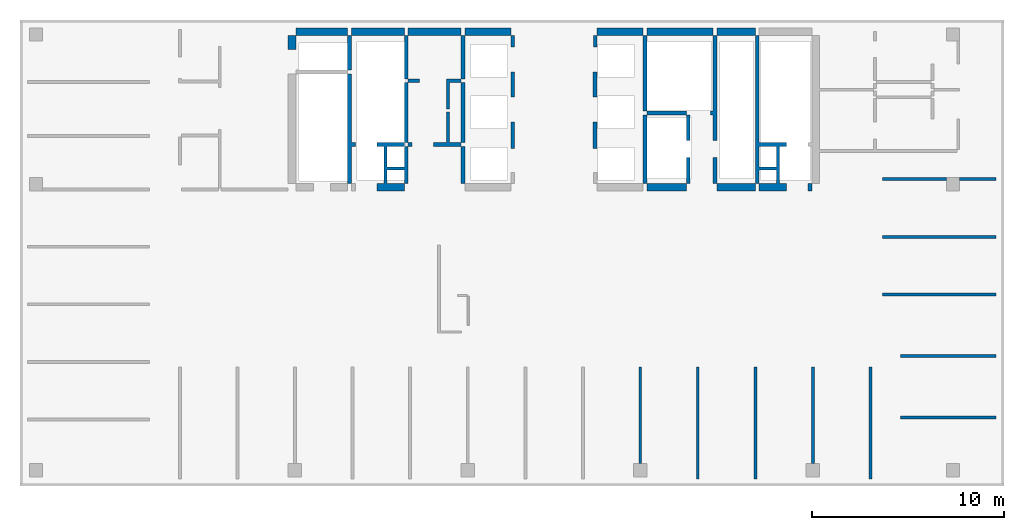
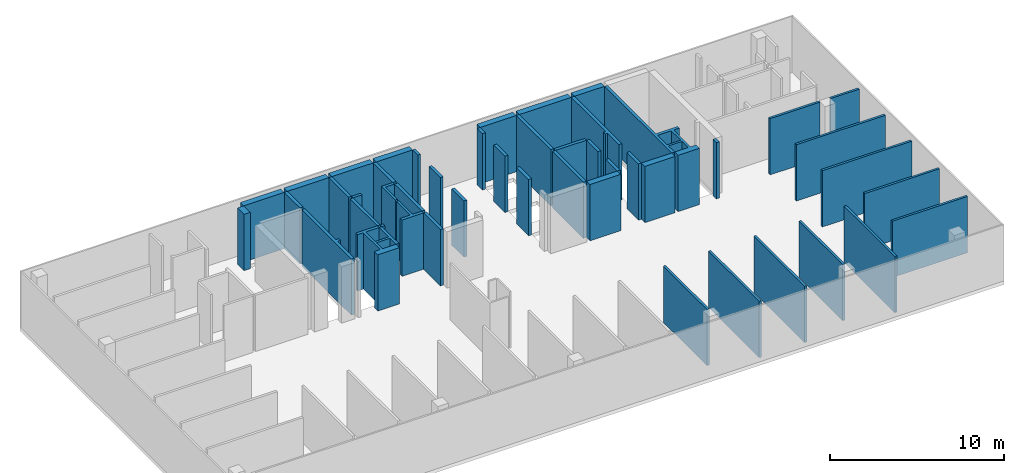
# One storey, part 2 of 4: 48 walls.
"""IFC4 building model written with IfcOpenShell, lengths in millimetres."""

from ifc_helpers import new_model, si_unit, frame, origin, place, context, project, spatial, triangles, element, save


model = new_model("IFC4")

# Units and contexts
model_context = context("Model", 3, precision=0.001, world=origin())
ifc_project = project(units=[si_unit("LENGTHUNIT", "METRE", prefix="MILLI"), si_unit("AREAUNIT", "SQUARE_METRE"), si_unit("VOLUMEUNIT", "CUBIC_METRE")], contexts=[model_context])

# Site, building, storey
site_placement = place(None, origin())
site = spatial("IfcSite", under=ifc_project, at=site_placement, Name="Site", CompositionType="ELEMENT")
building_placement = place(site_placement, origin())
building = spatial("IfcBuilding", under=site, at=building_placement, Name="INNOCEAN", CompositionType="ELEMENT")
storey_placement = place(building_placement, frame((0.0, 0.0, 72200.0)))
storey = spatial("IfcBuildingStorey", under=building, at=storey_placement, Name="F17", CompositionType="ELEMENT", Elevation=72200.0)

# Walls
wall_1_placement = place(storey_placement, origin())
element("IfcWall", 1, at=wall_1_placement, inside=storey, Name="F17_Walls_F17_015", context=model_context, shape_type="Tessellation", body=[
    triangles([(18130.0, 19245.0, 0.0), (18130.0, 17316.1, 0.0), (18130.0, 17316.1, 3950.0), (18130.0, 19245.0, 3950.0), (17749.4, 17316.1, 0.0), (17749.4, 17316.1, 3950.0), (17749.4, 16922.4, 0.0), (17749.4, 16922.4, 3950.0), (19183.7, 16922.4, 0.0), (19183.7, 16922.4, 3950.0), (19183.7, 17316.1, 0.0), (19183.7, 17316.1, 3950.0), (19374.1, 17316.1, 0.0), (19374.1, 17316.1, 3950.0), (19374.1, 19246.7, 0.0), (19374.1, 19246.7, 3950.0), (19183.7, 19246.7, 0.0), (19183.7, 19246.7, 3950.0), (19183.7, 19449.9, 0.0), (19183.7, 19449.9, 3950.0), (17749.4, 19449.9, 0.0), (17749.4, 19449.9, 3950.0), (17749.4, 19246.7, 0.0), (17749.4, 19246.7, 3950.0), (18130.2, 19246.7, 0.0), (18130.2, 19246.7, 3950.0), (18130.2, 19245.0, 0.0), (18130.2, 19245.0, 3950.0), (18282.5, 17316.1, 0.0), (18282.5, 17316.1, 3950.0), (18282.5, 18014.7, 0.0), (18282.5, 18014.7, 3950.0), (19183.7, 18014.7, 0.0), (19183.7, 18014.7, 3950.0), (19183.7, 18167.1, 0.0), (19183.7, 18167.1, 3950.0), (18282.5, 18167.1, 0.0), (18282.5, 18167.1, 3950.0), (18282.5, 19246.7, 0.0), (18282.5, 19246.7, 3950.0)], [[1, 2, 3], [1, 3, 4], [2, 5, 6], [2, 6, 3], [7, 8, 6], [5, 7, 6], [7, 9, 10], [7, 10, 8], [11, 12, 10], [9, 11, 10], [11, 13, 14], [11, 14, 12], [13, 15, 16], [13, 16, 14], [15, 17, 18], [15, 18, 16], [17, 19, 20], [17, 20, 18], [19, 21, 22], [19, 22, 20], [21, 23, 24], [21, 24, 22], [25, 26, 24], [23, 25, 24], [25, 27, 28], [25, 28, 26], [27, 1, 4], [27, 4, 28], [11, 29, 30], [11, 30, 12], [29, 31, 32], [29, 32, 30], [31, 33, 34], [31, 34, 32], [33, 11, 12], [33, 12, 34], [17, 35, 36], [17, 36, 18], [35, 37, 38], [35, 38, 36], [37, 39, 40], [37, 40, 38], [39, 17, 18], [39, 18, 40], [33, 13, 11], [35, 13, 33], [29, 11, 9], [7, 29, 9], [2, 29, 7], [5, 2, 7], [31, 35, 33], [31, 29, 2], [15, 13, 35], [37, 35, 31], [17, 15, 35], [39, 19, 17], [27, 39, 37], [1, 27, 37], [25, 39, 27], [21, 25, 23], [21, 19, 39], [21, 39, 25], [2, 1, 37], [2, 37, 31], [14, 34, 12], [14, 36, 34], [12, 30, 10], [30, 8, 10], [30, 3, 8], [3, 6, 8], [36, 32, 34], [30, 32, 3], [14, 16, 36], [36, 38, 32], [16, 18, 36], [20, 40, 18], [40, 28, 38], [28, 4, 38], [40, 26, 28], [26, 22, 24], [20, 22, 40], [40, 22, 26], [4, 3, 38], [38, 3, 32]], closed=True),
])
wall_2_placement = place(storey_placement, origin())
element("IfcWall", 2, at=wall_2_placement, inside=storey, Name="F17_Walls_F17_016", context=model_context, shape_type="Tessellation", body=[
    triangles([(16429.3, 23019.0, 0.0), (16226.2, 23019.0, 0.0), (16226.2, 23019.0, 3950.0), (16429.3, 23019.0, 3950.0), (16429.3, 19449.9, 0.0), (16429.3, 19449.9, 3950.0), (16632.4, 19449.9, 3950.0), (16632.4, 19449.9, 0.0), (16632.4, 19246.7, 0.0), (16632.4, 19246.7, 3950.0), (16429.3, 19246.7, 3950.0), (16429.3, 19246.7, 0.0), (16429.3, 17316.1, 0.0), (16429.3, 17316.1, 3950.0), (16226.2, 17316.1, 0.0), (16226.2, 17316.1, 3950.0), (16226.2, 19246.7, 0.0), (16226.2, 19246.7, 3950.0), (16226.2, 19449.9, 0.0), (16226.2, 19449.9, 3950.0)], [[1, 2, 3], [1, 3, 4], [5, 1, 4], [5, 4, 6], [5, 6, 7], [8, 5, 7], [9, 8, 7], [9, 7, 10], [9, 10, 11], [12, 9, 11], [13, 12, 11], [13, 11, 14], [15, 13, 14], [15, 14, 16], [17, 15, 16], [17, 16, 18], [19, 17, 18], [19, 18, 20], [2, 19, 20], [2, 20, 3], [17, 12, 13], [17, 13, 15], [5, 8, 9], [5, 9, 12], [19, 5, 12], [19, 12, 17], [1, 5, 19], [2, 1, 19], [11, 18, 14], [14, 18, 16], [7, 6, 10], [10, 6, 11], [6, 20, 11], [11, 20, 18], [6, 4, 20], [4, 3, 20]], closed=True),
])
wall_3_placement = place(storey_placement, origin())
element("IfcWall", 3, at=wall_3_placement, inside=storey, Name="F17_Walls_F17_024", context=model_context, shape_type="Tessellation", body=[
    triangles([(16429.3, 23222.2, 0.0), (16429.3, 25025.8, 0.0), (16429.3, 25025.8, 3950.0), (16429.3, 23222.2, 3950.0), (16226.2, 23222.2, 0.0), (16226.2, 23222.2, 3950.0), (16226.2, 25025.8, 0.0), (16226.2, 25025.8, 3950.0)], [[1, 2, 3], [1, 3, 4], [5, 1, 4], [5, 4, 6], [7, 5, 6], [7, 6, 8], [2, 7, 8], [2, 8, 3], [7, 2, 1], [7, 1, 5], [3, 8, 4], [4, 8, 6]], closed=True),
])
wall_4_placement = place(storey_placement, origin())
element("IfcWall", 4, at=wall_4_placement, inside=storey, Name="F17_Walls_F17_026", context=model_context, shape_type="Tessellation", body=[
    triangles([(13535.2, 24276.4, 0.0), (13535.2, 25025.8, 0.0), (13535.2, 25025.8, 3950.0), (13535.2, 24276.4, 3950.0), (13129.0, 24276.4, 3950.0), (13129.0, 24276.4, 0.0), (13129.0, 25025.8, 0.0), (13129.0, 25025.8, 3950.0)], [[1, 2, 3], [1, 3, 4], [1, 4, 5], [6, 1, 5], [7, 6, 5], [7, 5, 8], [7, 8, 3], [2, 7, 3], [2, 1, 6], [7, 2, 6], [4, 3, 5], [3, 8, 5]], closed=True),
])
wall_5_placement = place(storey_placement, origin())
element("IfcWall", 5, at=wall_5_placement, inside=storey, Name="F17_Walls_F17_027", context=model_context, shape_type="Tessellation", body=[
    triangles([(13535.2, 25419.5, 0.0), (13535.2, 25025.8, 0.0), (13535.2, 25025.8, 3950.0), (13535.2, 25419.5, 3950.0), (16226.2, 25419.5, 0.0), (16226.2, 25419.5, 3950.0), (16226.2, 25025.8, 0.0), (16226.2, 25025.8, 3950.0)], [[1, 2, 3], [1, 3, 4], [5, 1, 4], [5, 4, 6], [7, 5, 6], [7, 6, 8], [2, 7, 8], [2, 8, 3], [2, 5, 7], [1, 5, 2], [6, 3, 8], [6, 4, 3]], closed=True),
])
wall_6_placement = place(storey_placement, origin())
element("IfcWall", 6, at=wall_6_placement, inside=storey, Name="F17_Walls_F17_028", context=model_context, shape_type="Tessellation", body=[
    triangles([(19183.7, 25025.8, 0.0), (19183.7, 25419.5, 0.0), (19183.7, 25419.5, 3950.0), (19183.7, 25025.8, 3950.0), (16429.3, 25025.8, 0.0), (16429.3, 25025.8, 3950.0), (16429.3, 25419.5, 0.0), (16429.3, 25419.5, 3950.0)], [[1, 2, 3], [1, 3, 4], [5, 1, 4], [5, 4, 6], [7, 5, 6], [7, 6, 8], [2, 7, 8], [2, 8, 3], [7, 2, 1], [7, 1, 5], [3, 8, 4], [4, 8, 6]], closed=True),
])
wall_7_placement = place(storey_placement, origin())
element("IfcWall", 7, at=wall_7_placement, inside=storey, Name="F17_Walls_F17_037", context=model_context, shape_type="Tessellation", body=[
    triangles([(22331.6, 17316.1, 0.0), (22331.6, 19246.7, 0.0), (22331.6, 19246.7, 3950.0), (22331.6, 17316.1, 3950.0), (22128.5, 17316.1, 0.0), (22128.5, 17316.1, 3950.0), (22128.5, 19246.7, 0.0), (22128.5, 19246.7, 3950.0)], [[1, 2, 3], [1, 3, 4], [5, 1, 4], [5, 4, 6], [7, 5, 6], [7, 6, 8], [2, 7, 8], [2, 8, 3], [7, 2, 1], [7, 1, 5], [3, 8, 4], [4, 8, 6]], closed=True),
])
wall_8_placement = place(storey_placement, origin())
element("IfcWall", 8, at=wall_8_placement, inside=storey, Name="F17_Walls_F17_038", context=model_context, shape_type="Tessellation", body=[
    triangles([(22128.5, 19246.7, 0.0), (22128.5, 19449.9, 0.0), (22128.5, 19449.9, 3950.0), (22128.5, 19246.7, 3950.0), (20694.2, 19246.7, 0.0), (20694.2, 19246.7, 3950.0), (20694.2, 19449.9, 0.0), (20694.2, 19449.9, 3950.0), (21366.9, 19449.9, 0.0), (21366.9, 19449.9, 3950.0), (21366.9, 21024.9, 0.0), (21366.9, 21024.9, 3950.0), (21519.3, 21024.9, 0.0), (21519.3, 21024.9, 3950.0), (21519.3, 19449.9, 0.0), (21519.3, 19449.9, 3950.0)], [[1, 2, 3], [1, 3, 4], [5, 1, 4], [5, 4, 6], [7, 5, 6], [7, 6, 8], [9, 7, 8], [9, 8, 10], [11, 9, 10], [11, 10, 12], [13, 11, 12], [13, 12, 14], [15, 13, 14], [15, 14, 16], [2, 15, 16], [2, 16, 3], [15, 2, 1], [9, 15, 1], [5, 9, 1], [7, 9, 5], [11, 13, 15], [11, 15, 9], [3, 16, 4], [16, 10, 4], [10, 6, 4], [10, 8, 6], [14, 12, 16], [16, 12, 10]], closed=True),
])
wall_9_placement = place(storey_placement, origin())
element("IfcWall", 9, at=wall_9_placement, inside=storey, Name="F17_Walls_F17_039", context=model_context, shape_type="Tessellation", body=[
    triangles([(19374.1, 19449.9, 0.0), (19374.1, 19449.9, 3950.0), (19577.2, 19449.9, 3950.0), (19577.2, 19449.9, 0.0), (19577.2, 19246.7, 0.0), (19577.2, 19246.7, 3950.0), (19374.1, 19246.7, 3950.0), (19374.1, 19246.7, 0.0)], [[1, 2, 3], [4, 1, 3], [5, 4, 3], [5, 3, 6], [5, 6, 7], [8, 5, 7], [1, 8, 7], [1, 7, 2], [1, 4, 5], [1, 5, 8], [3, 2, 6], [6, 2, 7]], closed=True),
])
wall_10_placement = place(storey_placement, origin())
element("IfcWall", 10, at=wall_10_placement, inside=storey, Name="F17_Walls_F17_040", context=model_context, shape_type="Tessellation", body=[
    triangles([(24730.0, 20515.0, 0.0), (24730.0, 19120.0, 0.0), (24730.0, 19120.0, 3950.0), (24730.0, 20515.0, 3950.0), (24730.6, 20515.0, 0.0), (24730.6, 20515.0, 3950.0), (24730.6, 20516.8, 3950.0), (24730.6, 20516.8, 0.0), (24921.0, 20516.8, 0.0), (24921.0, 20516.8, 3950.0), (24921.0, 19119.7, 0.0), (24921.0, 19119.7, 3950.0), (24730.6, 19119.7, 0.0), (24730.6, 19119.7, 3950.0), (24730.6, 19120.0, 0.0), (24730.6, 19120.0, 3950.0)], [[1, 2, 3], [1, 3, 4], [5, 1, 4], [5, 4, 6], [5, 6, 7], [8, 5, 7], [9, 8, 7], [9, 7, 10], [11, 9, 10], [11, 10, 12], [13, 11, 12], [13, 12, 14], [15, 13, 14], [15, 14, 16], [2, 15, 16], [2, 16, 3], [15, 11, 13], [5, 9, 11], [5, 11, 15], [1, 15, 2], [1, 5, 15], [8, 9, 5], [12, 16, 14], [10, 6, 12], [12, 6, 16], [16, 4, 3], [6, 4, 16], [10, 7, 6]], closed=True),
])
wall_11_placement = place(storey_placement, origin())
element("IfcWall", 11, at=wall_11_placement, inside=storey, Name="F17_Walls_F17_041", context=model_context, shape_type="Tessellation", body=[
    triangles([(19183.7, 19449.9, 0.0), (19374.1, 19449.9, 0.0), (19374.1, 19449.9, 3950.0), (19183.7, 19449.9, 3950.0), (19183.7, 22574.4, 0.0), (19183.7, 22574.4, 3950.0), (19374.1, 22574.4, 0.0), (19374.1, 22574.4, 3950.0)], [[1, 2, 3], [1, 3, 4], [5, 1, 4], [5, 4, 6], [7, 5, 6], [7, 6, 8], [2, 7, 8], [2, 8, 3], [7, 2, 1], [5, 7, 1], [3, 8, 4], [8, 6, 4]], closed=True),
])
wall_12_placement = place(storey_placement, origin())
element("IfcWall", 12, at=wall_12_placement, inside=storey, Name="F17_Walls_F17_042", context=model_context, shape_type="Tessellation", body=[
    triangles([(22128.5, 19449.9, 0.0), (22331.6, 19449.9, 0.0), (22331.6, 19449.9, 3950.0), (22128.5, 19449.9, 3950.0), (22128.5, 22574.4, 0.0), (22128.5, 22574.4, 3950.0), (22331.6, 22574.4, 0.0), (22331.6, 22574.4, 3950.0)], [[1, 2, 3], [1, 3, 4], [5, 1, 4], [5, 4, 6], [7, 5, 6], [7, 6, 8], [2, 7, 8], [2, 8, 3], [7, 2, 1], [5, 7, 1], [3, 8, 4], [8, 6, 4]], closed=True),
])
wall_13_placement = place(storey_placement, origin())
element("IfcWall", 13, at=wall_13_placement, inside=storey, Name="F17_Walls_F17_043", context=model_context, shape_type="Tessellation", body=[
    triangles([(21366.9, 21177.3, 0.0), (21519.3, 21177.3, 0.0), (21519.3, 21177.3, 3950.0), (21366.9, 21177.3, 3950.0), (21366.9, 22574.4, 0.0), (21366.9, 22574.4, 3950.0), (21366.9, 22765.0, 3950.0), (21366.9, 22765.0, 0.0), (22128.5, 22765.0, 0.0), (22128.5, 22765.0, 3950.0), (22128.5, 22574.4, 3950.0), (22128.5, 22574.4, 0.0), (21519.3, 22574.4, 0.0), (21519.3, 22574.4, 3950.0)], [[1, 2, 3], [1, 3, 4], [5, 1, 4], [5, 4, 6], [5, 6, 7], [8, 5, 7], [9, 8, 7], [9, 7, 10], [9, 10, 11], [12, 9, 11], [13, 12, 11], [13, 11, 14], [2, 13, 14], [2, 14, 3], [13, 9, 12], [5, 2, 1], [5, 13, 2], [8, 13, 5], [8, 9, 13], [10, 14, 11], [3, 6, 4], [14, 6, 3], [14, 7, 6], [10, 7, 14]], closed=True),
])
wall_14_placement = place(storey_placement, origin())
element("IfcWall", 14, at=wall_14_placement, inside=storey, Name="F17_Walls_F17_044", context=model_context, shape_type="Tessellation", body=[
    triangles([(24920.0, 21825.0, 0.0), (24920.0, 21825.1, 0.0), (24920.0, 21825.1, 3950.0), (24920.0, 21825.0, 3950.0), (24730.0, 21825.0, 0.0), (24730.0, 21825.0, 3950.0), (24730.0, 23120.0, 3950.0), (24730.0, 23120.0, 0.0), (24730.6, 23120.0, 0.0), (24730.6, 23120.0, 3950.0), (24730.6, 23120.6, 0.0), (24730.6, 23120.6, 3950.0), (24921.0, 23120.6, 0.0), (24921.0, 23120.6, 3950.0), (24921.0, 21825.1, 0.0), (24921.0, 21825.1, 3950.0)], [[1, 2, 3], [1, 3, 4], [5, 1, 4], [5, 4, 6], [5, 6, 7], [8, 5, 7], [9, 8, 7], [9, 7, 10], [11, 9, 10], [11, 10, 12], [13, 11, 12], [13, 12, 14], [15, 13, 14], [15, 14, 16], [2, 15, 16], [2, 16, 3], [5, 2, 1], [13, 15, 2], [9, 13, 2], [9, 2, 5], [8, 9, 5], [11, 13, 9], [3, 6, 4], [16, 14, 3], [14, 10, 3], [3, 10, 6], [10, 7, 6], [14, 12, 10]], closed=True),
])
wall_15_placement = place(storey_placement, origin())
element("IfcWall", 15, at=wall_15_placement, inside=storey, Name="F17_Walls_F17_045", context=model_context, shape_type="Tessellation", body=[
    triangles([(19374.1, 22574.4, 0.0), (19374.1, 22574.4, 3950.0), (19374.1, 22765.0, 3950.0), (19374.1, 22765.0, 0.0), (19970.7, 22765.0, 0.0), (19970.7, 22765.0, 3950.0), (19970.7, 22574.4, 3950.0), (19970.7, 22574.4, 0.0)], [[1, 2, 3], [4, 1, 3], [5, 4, 3], [5, 3, 6], [5, 6, 7], [8, 5, 7], [1, 8, 7], [1, 7, 2], [4, 5, 8], [4, 8, 1], [6, 3, 7], [7, 3, 2]], closed=True),
])
wall_16_placement = place(storey_placement, origin())
element("IfcWall", 16, at=wall_16_placement, inside=storey, Name="F17_Walls_F17_046", context=model_context, shape_type="Tessellation", body=[
    triangles([(19374.1, 22765.0, 0.0), (19374.1, 25025.8, 0.0), (19374.1, 25025.8, 3950.0), (19374.1, 22765.0, 3950.0), (19183.7, 22765.0, 0.0), (19183.7, 22765.0, 3950.0), (19183.7, 25025.8, 0.0), (19183.7, 25025.8, 3950.0)], [[1, 2, 3], [1, 3, 4], [5, 1, 4], [5, 4, 6], [7, 5, 6], [7, 6, 8], [2, 7, 8], [2, 8, 3], [7, 2, 1], [7, 1, 5], [3, 8, 4], [4, 8, 6]], closed=True),
])
wall_17_placement = place(storey_placement, origin())
element("IfcWall", 17, at=wall_17_placement, inside=storey, Name="F17_Walls_F17_047", context=model_context, shape_type="Tessellation", body=[
    triangles([(22128.5, 25025.8, 0.0), (22128.5, 22765.0, 0.0), (22128.5, 22765.0, 3950.0), (22128.5, 25025.8, 3950.0), (22331.6, 25025.8, 0.0), (22331.6, 25025.8, 3950.0), (22331.6, 22765.0, 0.0), (22331.6, 22765.0, 3950.0)], [[1, 2, 3], [1, 3, 4], [5, 1, 4], [5, 4, 6], [7, 5, 6], [7, 6, 8], [2, 7, 8], [2, 8, 3], [1, 5, 7], [1, 7, 2], [6, 4, 8], [8, 4, 3]], closed=True),
])
wall_18_placement = place(storey_placement, origin())
element("IfcWall", 18, at=wall_18_placement, inside=storey, Name="F17_Walls_F17_048", context=model_context, shape_type="Tessellation", body=[
    triangles([(24730.6, 24416.1, 0.0), (24921.0, 24416.1, 0.0), (24921.0, 24416.1, 3950.0), (24730.6, 24416.1, 3950.0), (24730.6, 25025.8, 0.0), (24730.6, 25025.8, 3950.0), (24921.0, 25025.8, 0.0), (24921.0, 25025.8, 3950.0)], [[1, 2, 3], [1, 3, 4], [5, 1, 4], [5, 4, 6], [7, 5, 6], [7, 6, 8], [2, 7, 8], [2, 8, 3], [5, 2, 1], [5, 7, 2], [3, 6, 4], [8, 6, 3]], closed=True),
])
wall_19_placement = place(storey_placement, origin())
element("IfcWall", 19, at=wall_19_placement, inside=storey, Name="F17_Walls_F17_049", context=model_context, shape_type="Tessellation", body=[
    triangles([(19374.1, 25025.8, 0.0), (22128.5, 25025.8, 0.0), (22128.5, 25025.8, 3950.0), (19374.1, 25025.8, 3950.0), (19374.1, 25419.5, 0.0), (19374.1, 25419.5, 3950.0), (22128.5, 25419.5, 0.0), (22128.5, 25419.5, 3950.0)], [[1, 2, 3], [1, 3, 4], [5, 1, 4], [5, 4, 6], [7, 5, 6], [7, 6, 8], [2, 7, 8], [2, 8, 3], [5, 2, 1], [5, 7, 2], [3, 6, 4], [8, 6, 3]], closed=True),
])
wall_20_placement = place(storey_placement, origin())
element("IfcWall", 20, at=wall_20_placement, inside=storey, Name="F17_Walls_F17_050", context=model_context, shape_type="Tessellation", body=[
    triangles([(24730.6, 25025.8, 0.0), (24730.6, 25419.5, 0.0), (24730.6, 25419.5, 3950.0), (24730.6, 25025.8, 3950.0), (22331.6, 25025.8, 0.0), (22331.6, 25025.8, 3950.0), (22331.6, 25419.5, 0.0), (22331.6, 25419.5, 3950.0)], [[1, 2, 3], [1, 3, 4], [5, 1, 4], [5, 4, 6], [7, 5, 6], [7, 6, 8], [2, 7, 8], [2, 8, 3], [7, 2, 1], [7, 1, 5], [3, 8, 4], [4, 8, 6]], closed=True),
])
wall_21_placement = place(storey_placement, origin())
element("IfcWall", 21, at=wall_21_placement, inside=storey, Name="F17_Walls_F17_052", context=model_context, shape_type="Tessellation", body=[
    triangles([(34542.5, 1922.1, 0.0), (34542.5, 7752.0, 0.0), (34542.5, 7752.0, 3950.0), (34542.5, 1922.1, 3950.0), (34390.2, 1922.1, 0.0), (34390.2, 1922.1, 3950.0), (34390.2, 7752.0, 0.0), (34390.2, 7752.0, 3950.0)], [[1, 2, 3], [1, 3, 4], [5, 1, 4], [5, 4, 6], [7, 5, 6], [7, 6, 8], [2, 7, 8], [2, 8, 3], [2, 1, 5], [7, 2, 5], [4, 3, 6], [3, 8, 6]], closed=True),
])
wall_22_placement = place(storey_placement, origin())
element("IfcWall", 22, at=wall_22_placement, inside=storey, Name="F17_Walls_F17_053", context=model_context, shape_type="Tessellation", body=[
    triangles([(37550.8, 1922.1, 0.0), (37550.8, 7752.0, 0.0), (37550.8, 7752.0, 3950.0), (37550.8, 1922.1, 3950.0), (37398.5, 1922.1, 0.0), (37398.5, 1922.1, 3950.0), (37398.5, 7752.0, 0.0), (37398.5, 7752.0, 3950.0)], [[1, 2, 3], [1, 3, 4], [5, 1, 4], [5, 4, 6], [7, 5, 6], [7, 6, 8], [2, 7, 8], [2, 8, 3], [2, 1, 5], [7, 2, 5], [4, 3, 6], [3, 8, 6]], closed=True),
])
wall_23_placement = place(storey_placement, origin())
element("IfcWall", 23, at=wall_23_placement, inside=storey, Name="F17_Walls_F17_054", context=model_context, shape_type="Tessellation", body=[
    triangles([(31546.9, 2722.3, 0.0), (31546.9, 7752.0, 0.0), (31546.9, 7752.0, 3950.0), (31546.9, 2722.3, 3950.0), (31394.6, 2722.3, 0.0), (31394.6, 2722.3, 3950.0), (31394.6, 7752.0, 0.0), (31394.6, 7752.0, 3950.0)], [[1, 2, 3], [1, 3, 4], [5, 1, 4], [5, 4, 6], [7, 5, 6], [7, 6, 8], [2, 7, 8], [2, 8, 3], [7, 2, 1], [7, 1, 5], [3, 8, 4], [4, 8, 6]], closed=True),
])
wall_24_placement = place(storey_placement, origin())
element("IfcWall", 24, at=wall_24_placement, inside=storey, Name="F17_Walls_F17_056", context=model_context, shape_type="Tessellation", body=[
    triangles([(33869.8, 17316.1, 0.0), (33869.8, 17316.1, 3950.0), (33869.8, 16922.4, 3950.0), (33869.8, 16922.4, 0.0), (31826.2, 16922.4, 0.0), (31826.2, 16922.4, 3950.0), (31826.2, 17316.1, 3950.0), (31826.2, 17316.1, 0.0)], [[1, 2, 3], [4, 1, 3], [5, 4, 3], [5, 3, 6], [5, 6, 7], [8, 5, 7], [1, 8, 7], [1, 7, 2], [8, 1, 4], [8, 4, 5], [2, 7, 3], [3, 7, 6]], closed=True),
])
wall_25_placement = place(storey_placement, origin())
element("IfcWall", 25, at=wall_25_placement, inside=storey, Name="F17_Walls_F17_057", context=model_context, shape_type="Tessellation", body=[
    triangles([(37474.6, 17316.1, 0.0), (37474.6, 17316.1, 3950.0), (37474.6, 16922.4, 3950.0), (37474.6, 16922.4, 0.0), (35469.1, 16922.4, 0.0), (35469.1, 16922.4, 3950.0), (35469.1, 17316.1, 3950.0), (35469.1, 17316.1, 0.0)], [[1, 2, 3], [4, 1, 3], [5, 4, 3], [5, 3, 6], [5, 6, 7], [8, 5, 7], [1, 8, 7], [1, 7, 2], [8, 1, 4], [8, 4, 5], [2, 7, 3], [3, 7, 6]], closed=True),
])
wall_26_placement = place(storey_placement, origin())
element("IfcWall", 26, at=wall_26_placement, inside=storey, Name="F17_Walls_F17_058", context=model_context, shape_type="Tessellation", body=[
    triangles([(39099.4, 17316.1, 0.0), (38720.0, 17316.1, 0.0), (38720.0, 17316.1, 3950.0), (39099.4, 17316.1, 3950.0), (38720.0, 19245.0, 0.0), (38720.0, 19245.0, 3950.0), (39100.0, 19245.0, 0.0), (39100.0, 19245.0, 3950.0), (39100.0, 19450.0, 0.0), (39100.0, 19450.0, 3950.0), (37665.0, 19450.0, 0.0), (37665.0, 19450.0, 3950.0), (37665.0, 25025.8, 0.0), (37665.0, 25025.8, 3950.0), (37474.6, 25025.8, 0.0), (37474.6, 25025.8, 3950.0), (37474.6, 19449.9, 0.0), (37474.6, 19449.9, 3950.0), (37474.6, 17316.1, 0.0), (37474.6, 17316.1, 3950.0), (37665.0, 17316.1, 0.0), (37665.0, 17316.1, 3950.0), (37665.0, 16922.4, 0.0), (37665.0, 16922.4, 3950.0), (39099.4, 16922.4, 0.0), (39099.4, 16922.4, 3950.0), (37665.0, 18014.7, 0.0), (37665.0, 18014.7, 3950.0), (38565.0, 18014.7, 0.0), (38565.0, 18014.7, 3950.0), (38565.0, 17316.1, 0.0), (38565.0, 17316.1, 3950.0), (38565.0, 19245.0, 0.0), (38565.0, 18167.1, 0.0), (38565.0, 18167.1, 3950.0), (38565.0, 19245.0, 3950.0), (37665.0, 18167.1, 0.0), (37665.0, 18167.1, 3950.0), (37665.0, 19245.0, 0.0), (37665.0, 19245.0, 3950.0)], [[1, 2, 3], [1, 3, 4], [2, 5, 6], [2, 6, 3], [7, 8, 6], [5, 7, 6], [7, 9, 10], [7, 10, 8], [9, 11, 12], [9, 12, 10], [11, 13, 14], [11, 14, 12], [13, 15, 16], [13, 16, 14], [15, 17, 18], [15, 18, 16], [17, 19, 20], [17, 20, 18], [19, 21, 22], [19, 22, 20], [23, 24, 22], [21, 23, 22], [23, 25, 26], [23, 26, 24], [1, 4, 26], [25, 1, 26], [21, 27, 28], [21, 28, 22], [27, 29, 30], [27, 30, 28], [29, 31, 32], [29, 32, 30], [31, 21, 22], [31, 22, 32], [33, 34, 35], [33, 35, 36], [34, 37, 38], [34, 38, 35], [37, 39, 40], [37, 40, 38], [39, 33, 36], [39, 36, 40], [2, 1, 25], [31, 2, 25], [23, 31, 25], [29, 2, 31], [21, 31, 23], [27, 21, 19], [37, 29, 27], [37, 34, 29], [37, 27, 19], [5, 9, 7], [33, 5, 34], [33, 9, 5], [11, 33, 39], [11, 9, 33], [17, 39, 37], [17, 11, 39], [17, 37, 19], [15, 13, 11], [15, 11, 17], [5, 2, 29], [5, 29, 34], [4, 3, 26], [3, 32, 26], [32, 24, 26], [3, 30, 32], [32, 22, 24], [22, 28, 20], [30, 38, 28], [35, 38, 30], [28, 38, 20], [10, 6, 8], [6, 36, 35], [10, 36, 6], [36, 12, 40], [10, 12, 36], [40, 18, 38], [12, 18, 40], [38, 18, 20], [14, 16, 12], [12, 16, 18], [3, 6, 30], [30, 6, 35]], closed=True),
])
wall_27_placement = place(storey_placement, origin())
element("IfcWall", 27, at=wall_27_placement, inside=storey, Name="F17_Walls_F17_060", context=model_context, shape_type="Tessellation", body=[
    triangles([(34072.9, 17316.1, 0.0), (34072.9, 18649.7, 0.0), (34072.9, 18649.7, 3950.0), (34072.9, 17316.1, 3950.0), (33869.8, 17316.1, 0.0), (33869.8, 17316.1, 3950.0), (33869.8, 18649.7, 0.0), (33869.8, 18649.7, 3950.0)], [[1, 2, 3], [1, 3, 4], [5, 1, 4], [5, 4, 6], [7, 5, 6], [7, 6, 8], [2, 7, 8], [2, 8, 3], [7, 2, 1], [7, 1, 5], [3, 8, 4], [4, 8, 6]], closed=True),
])
wall_28_placement = place(storey_placement, origin())
element("IfcWall", 28, at=wall_28_placement, inside=storey, Name="F17_Walls_F17_061", context=model_context, shape_type="Tessellation", body=[
    triangles([(35469.1, 17316.1, 0.0), (35469.1, 18649.7, 0.0), (35469.1, 18649.7, 3950.0), (35469.1, 17316.1, 3950.0), (35266.0, 17316.1, 0.0), (35266.0, 17316.1, 3950.0), (35266.0, 18649.7, 0.0), (35266.0, 18649.7, 3950.0)], [[1, 2, 3], [1, 3, 4], [5, 1, 4], [5, 4, 6], [7, 5, 6], [7, 6, 8], [2, 7, 8], [2, 8, 3], [7, 2, 1], [7, 1, 5], [3, 8, 4], [4, 8, 6]], closed=True),
])
wall_29_placement = place(storey_placement, origin())
element("IfcWall", 29, at=wall_29_placement, inside=storey, Name="F17_Walls_F17_062", context=model_context, shape_type="Tessellation", body=[
    triangles([(31826.2, 20872.5, 0.0), (31826.2, 20872.5, 3950.0), (31826.2, 17316.1, 3950.0), (31826.2, 17316.1, 0.0), (31623.1, 17316.1, 3950.0), (31623.1, 17316.1, 0.0), (31623.1, 20872.5, 3950.0), (31623.1, 20872.5, 0.0)], [[1, 2, 3], [4, 1, 3], [4, 3, 5], [6, 4, 5], [6, 5, 7], [8, 6, 7], [8, 7, 2], [1, 8, 2], [8, 1, 4], [8, 4, 6], [2, 7, 3], [3, 7, 5]], closed=True),
])
wall_30_placement = place(storey_placement, origin())
element("IfcWall", 30, at=wall_30_placement, inside=storey, Name="F17_Walls_F17_063", context=model_context, shape_type="Tessellation", body=[
    triangles([(29020.0, 20515.0, 0.0), (29020.0, 19120.0, 0.0), (29020.0, 19120.0, 3950.0), (29020.0, 20515.0, 3950.0), (29020.9, 20515.0, 0.0), (29020.9, 20515.0, 3950.0), (29020.9, 20516.8, 3950.0), (29020.9, 20516.8, 0.0), (29224.0, 20516.8, 0.0), (29224.0, 20516.8, 3950.0), (29224.0, 20515.0, 3950.0), (29224.0, 20515.0, 0.0), (29225.0, 20515.0, 0.0), (29225.0, 20515.0, 3950.0), (29225.0, 19120.0, 0.0), (29225.0, 19120.0, 3950.0), (29224.0, 19120.0, 0.0), (29224.0, 19120.0, 3950.0), (29224.0, 19119.7, 0.0), (29224.0, 19119.7, 3950.0), (29020.9, 19119.7, 0.0), (29020.9, 19119.7, 3950.0), (29020.9, 19120.0, 0.0), (29020.9, 19120.0, 3950.0)], [[1, 2, 3], [1, 3, 4], [5, 1, 4], [5, 4, 6], [5, 6, 7], [8, 5, 7], [9, 8, 7], [9, 7, 10], [9, 10, 11], [12, 9, 11], [13, 12, 11], [13, 11, 14], [15, 13, 14], [15, 14, 16], [17, 15, 16], [17, 16, 18], [19, 17, 18], [19, 18, 20], [21, 19, 20], [21, 20, 22], [23, 21, 22], [23, 22, 24], [2, 23, 24], [2, 24, 3], [23, 17, 19], [23, 19, 21], [12, 13, 15], [12, 15, 17], [12, 17, 23], [5, 12, 23], [1, 23, 2], [1, 5, 23], [8, 9, 12], [8, 12, 5], [18, 24, 20], [20, 24, 22], [14, 11, 16], [16, 11, 18], [18, 11, 24], [11, 6, 24], [24, 4, 3], [6, 4, 24], [10, 7, 11], [11, 7, 6]], closed=True),
])
wall_31_placement = place(storey_placement, origin())
element("IfcWall", 31, at=wall_31_placement, inside=storey, Name="F17_Walls_F17_064", context=model_context, shape_type="Tessellation", body=[
    triangles([(34072.9, 19551.5, 0.0), (34072.9, 20872.5, 0.0), (34072.9, 20872.5, 3950.0), (34072.9, 19551.5, 3950.0), (33869.8, 19551.5, 0.0), (33869.8, 19551.5, 3950.0), (33869.8, 20872.5, 0.0), (33869.8, 20872.5, 3950.0)], [[1, 2, 3], [1, 3, 4], [5, 1, 4], [5, 4, 6], [7, 5, 6], [7, 6, 8], [2, 7, 8], [2, 8, 3], [7, 2, 1], [7, 1, 5], [3, 8, 4], [4, 8, 6]], closed=True),
])
wall_32_placement = place(storey_placement, origin())
element("IfcWall", 32, at=wall_32_placement, inside=storey, Name="F17_Walls_F17_065", context=model_context, shape_type="Tessellation", body=[
    triangles([(35126.4, 21075.7, 0.0), (35126.4, 20872.5, 0.0), (35126.4, 20872.5, 3950.0), (35126.4, 21075.7, 3950.0), (35266.0, 21075.7, 0.0), (35266.0, 21075.7, 3950.0), (35266.0, 25025.8, 3950.0), (35266.0, 25025.8, 0.0), (35469.1, 25025.8, 0.0), (35469.1, 25025.8, 3950.0), (35469.1, 21075.7, 3950.0), (35469.1, 21075.7, 0.0), (35469.1, 20872.5, 0.0), (35469.1, 20872.5, 3950.0), (35469.1, 19551.5, 0.0), (35469.1, 19551.5, 3950.0), (35266.0, 19551.5, 0.0), (35266.0, 19551.5, 3950.0), (35266.0, 20872.5, 0.0), (35266.0, 20872.5, 3950.0)], [[1, 2, 3], [1, 3, 4], [5, 1, 4], [5, 4, 6], [7, 5, 6], [8, 5, 7], [9, 8, 7], [9, 7, 10], [11, 9, 10], [12, 9, 11], [13, 12, 11], [13, 11, 14], [15, 13, 14], [15, 14, 16], [17, 15, 16], [17, 16, 18], [19, 17, 18], [19, 18, 20], [2, 19, 20], [2, 20, 3], [19, 13, 15], [19, 15, 17], [12, 13, 19], [5, 12, 19], [1, 19, 2], [1, 5, 19], [8, 9, 12], [8, 12, 5], [14, 20, 16], [16, 20, 18], [14, 11, 20], [11, 6, 20], [20, 4, 3], [6, 4, 20], [10, 7, 11], [11, 7, 6]], closed=True),
])
wall_33_placement = place(storey_placement, origin())
element("IfcWall", 33, at=wall_33_placement, inside=storey, Name="F17_Walls_F17_066", context=model_context, shape_type="Tessellation", body=[
    triangles([(33869.8, 20872.5, 0.0), (33869.8, 21075.7, 0.0), (33869.8, 21075.7, 3950.0), (33869.8, 20872.5, 3950.0), (31826.2, 20872.5, 0.0), (31826.2, 20872.5, 3950.0), (31826.2, 21075.7, 0.0), (31826.2, 21075.7, 3950.0)], [[1, 2, 3], [1, 3, 4], [5, 1, 4], [5, 4, 6], [7, 5, 6], [7, 6, 8], [2, 7, 8], [2, 8, 3], [7, 2, 1], [7, 1, 5], [3, 8, 4], [4, 8, 6]], closed=True),
])
wall_34_placement = place(storey_placement, origin())
element("IfcWall", 34, at=wall_34_placement, inside=storey, Name="F17_Walls_F17_067", context=model_context, shape_type="Tessellation", body=[
    triangles([(29225.0, 23120.0, 0.0), (29225.0, 23120.0, 3950.0), (29225.0, 21825.0, 3950.0), (29225.0, 21825.0, 0.0), (29020.0, 21825.0, 0.0), (29020.0, 21825.0, 3950.0), (29020.0, 23120.0, 3950.0), (29020.0, 23120.0, 0.0), (29020.9, 23120.0, 0.0), (29020.9, 23120.0, 3950.0), (29020.9, 23120.6, 0.0), (29020.9, 23120.6, 3950.0), (29224.0, 23120.6, 0.0), (29224.0, 23120.6, 3950.0), (29224.0, 23120.0, 0.0), (29224.0, 23120.0, 3950.0)], [[1, 2, 3], [4, 1, 3], [5, 4, 3], [5, 3, 6], [5, 6, 7], [8, 5, 7], [9, 8, 7], [9, 7, 10], [11, 9, 10], [11, 10, 12], [13, 11, 12], [13, 12, 14], [15, 13, 14], [15, 14, 16], [1, 15, 16], [1, 16, 2], [15, 1, 4], [15, 4, 5], [9, 15, 5], [11, 13, 15], [11, 15, 9], [8, 9, 5], [2, 16, 3], [3, 16, 6], [16, 10, 6], [14, 12, 16], [16, 12, 10], [10, 7, 6]], closed=True),
])
wall_35_placement = place(storey_placement, origin())
element("IfcWall", 35, at=wall_35_placement, inside=storey, Name="F17_Walls_F17_068", context=model_context, shape_type="Tessellation", body=[
    triangles([(31826.2, 21075.7, 3950.0), (31826.2, 25025.8, 0.0), (31826.2, 25025.8, 3950.0), (31826.2, 21075.7, 0.0), (31623.1, 21075.7, 3950.0), (31623.1, 21075.7, 0.0), (31623.1, 25025.8, 3950.0), (31623.1, 25025.8, 0.0)], [[1, 2, 3], [4, 2, 1], [4, 1, 5], [6, 4, 5], [7, 6, 5], [8, 6, 7], [8, 7, 3], [2, 8, 3], [2, 4, 6], [8, 2, 6], [1, 3, 5], [3, 7, 5]], closed=True),
])
wall_36_placement = place(storey_placement, origin())
element("IfcWall", 36, at=wall_36_placement, inside=storey, Name="F17_Walls_F17_069", context=model_context, shape_type="Tessellation", body=[
    triangles([(29224.0, 25025.8, 0.0), (29020.9, 25025.8, 0.0), (29020.9, 25025.8, 3950.0), (29224.0, 25025.8, 3950.0), (29224.0, 24416.1, 0.0), (29224.0, 24416.1, 3950.0), (29020.9, 24416.1, 0.0), (29020.9, 24416.1, 3950.0)], [[1, 2, 3], [1, 3, 4], [5, 1, 4], [5, 4, 6], [7, 5, 6], [7, 6, 8], [2, 7, 8], [2, 8, 3], [2, 1, 5], [2, 5, 7], [4, 3, 6], [6, 3, 8]], closed=True),
])
wall_37_placement = place(storey_placement, origin())
element("IfcWall", 37, at=wall_37_placement, inside=storey, Name="F17_Walls_F17_070", context=model_context, shape_type="Tessellation", body=[
    triangles([(29224.0, 25025.8, 0.0), (31623.1, 25025.8, 0.0), (31623.1, 25025.8, 3950.0), (29224.0, 25025.8, 3950.0), (29224.0, 25419.5, 0.0), (29224.0, 25419.5, 3950.0), (31623.1, 25419.5, 0.0), (31623.1, 25419.5, 3950.0)], [[1, 2, 3], [1, 3, 4], [5, 1, 4], [5, 4, 6], [7, 5, 6], [7, 6, 8], [2, 7, 8], [2, 8, 3], [5, 2, 1], [5, 7, 2], [3, 6, 4], [8, 6, 3]], closed=True),
])
wall_38_placement = place(storey_placement, origin())
element("IfcWall", 38, at=wall_38_placement, inside=storey, Name="F17_Walls_F17_071", context=model_context, shape_type="Tessellation", body=[
    triangles([(31826.2, 25025.8, 0.0), (35266.0, 25025.8, 0.0), (35266.0, 25025.8, 3950.0), (31826.2, 25025.8, 3950.0), (31826.2, 25419.5, 0.0), (31826.2, 25419.5, 3950.0), (35266.0, 25419.5, 0.0), (35266.0, 25419.5, 3950.0)], [[1, 2, 3], [1, 3, 4], [5, 1, 4], [5, 4, 6], [7, 5, 6], [7, 6, 8], [2, 7, 8], [2, 8, 3], [5, 2, 1], [5, 7, 2], [3, 6, 4], [8, 6, 3]], closed=True),
])
wall_39_placement = place(storey_placement, origin())
element("IfcWall", 39, at=wall_39_placement, inside=storey, Name="F17_Walls_F17_072", context=model_context, shape_type="Tessellation", body=[
    triangles([(37474.6, 25025.8, 0.0), (37474.6, 25419.5, 0.0), (37474.6, 25419.5, 3950.0), (37474.6, 25025.8, 3950.0), (35469.1, 25025.8, 0.0), (35469.1, 25025.8, 3950.0), (35469.1, 25419.5, 0.0), (35469.1, 25419.5, 3950.0)], [[1, 2, 3], [1, 3, 4], [5, 1, 4], [5, 4, 6], [7, 5, 6], [7, 6, 8], [2, 7, 8], [2, 8, 3], [7, 2, 1], [7, 1, 5], [3, 8, 4], [4, 8, 6]], closed=True),
])
wall_40_placement = place(storey_placement, origin())
element("IfcWall", 40, at=wall_40_placement, inside=storey, Name="F17_Walls_F17_074", context=model_context, shape_type="Tessellation", body=[
    triangles([(43542.0, 1922.1, 0.0), (43542.0, 7752.0, 0.0), (43542.0, 7752.0, 3950.0), (43542.0, 1922.1, 3950.0), (43389.7, 1922.1, 0.0), (43389.7, 1922.1, 3950.0), (43389.7, 7752.0, 0.0), (43389.7, 7752.0, 3950.0)], [[1, 2, 3], [1, 3, 4], [5, 1, 4], [5, 4, 6], [7, 5, 6], [7, 6, 8], [2, 7, 8], [2, 8, 3], [2, 1, 5], [7, 2, 5], [4, 3, 6], [3, 8, 6]], closed=True),
])
wall_41_placement = place(storey_placement, origin())
element("IfcWall", 41, at=wall_41_placement, inside=storey, Name="F17_Walls_F17_075", context=model_context, shape_type="Tessellation", body=[
    triangles([(50015.5, 5046.6, 0.0), (50015.5, 5199.1, 0.0), (50015.5, 5199.1, 3950.0), (50015.5, 5046.6, 3950.0), (45039.8, 5046.6, 0.0), (45039.8, 5046.6, 3950.0), (45039.8, 5199.1, 0.0), (45039.8, 5199.1, 3950.0)], [[1, 2, 3], [1, 3, 4], [5, 1, 4], [5, 4, 6], [7, 5, 6], [7, 6, 8], [2, 7, 8], [2, 8, 3], [7, 2, 1], [7, 1, 5], [3, 8, 4], [4, 8, 6]], closed=True),
])
wall_42_placement = place(storey_placement, origin())
element("IfcWall", 42, at=wall_42_placement, inside=storey, Name="F17_Walls_F17_076", context=model_context, shape_type="Tessellation", body=[
    triangles([(40546.4, 2722.3, 0.0), (40546.4, 7752.0, 0.0), (40546.4, 7752.0, 3950.0), (40546.4, 2722.3, 3950.0), (40394.1, 2722.3, 0.0), (40394.1, 2722.3, 3950.0), (40394.1, 7752.0, 0.0), (40394.1, 7752.0, 3950.0)], [[1, 2, 3], [1, 3, 4], [5, 1, 4], [5, 4, 6], [7, 5, 6], [7, 6, 8], [2, 7, 8], [2, 8, 3], [7, 2, 1], [7, 1, 5], [3, 8, 4], [4, 8, 6]], closed=True),
])
wall_43_placement = place(storey_placement, origin())
element("IfcWall", 43, at=wall_43_placement, inside=storey, Name="F17_Walls_F17_077", context=model_context, shape_type="Tessellation", body=[
    triangles([(50015.5, 8247.4, 0.0), (50015.5, 8399.8, 0.0), (50015.5, 8399.8, 3950.0), (50015.5, 8247.4, 3950.0), (45039.8, 8247.4, 0.0), (45039.8, 8247.4, 3950.0), (45039.8, 8399.8, 0.0), (45039.8, 8399.8, 3950.0)], [[1, 2, 3], [1, 3, 4], [5, 1, 4], [5, 4, 6], [7, 5, 6], [7, 6, 8], [2, 7, 8], [2, 8, 3], [5, 2, 1], [7, 2, 5], [3, 6, 4], [3, 8, 6]], closed=True),
])
wall_44_placement = place(storey_placement, origin())
element("IfcWall", 44, at=wall_44_placement, inside=storey, Name="F17_Walls_F17_078", context=model_context, shape_type="Tessellation", body=[
    triangles([(50015.5, 11448.1, 0.0), (50015.5, 11600.5, 0.0), (50015.5, 11600.5, 3950.0), (50015.5, 11448.1, 3950.0), (44087.8, 11448.1, 0.0), (44087.8, 11448.1, 3950.0), (44087.8, 11600.5, 0.0), (44087.8, 11600.5, 3950.0)], [[1, 2, 3], [1, 3, 4], [5, 1, 4], [5, 4, 6], [7, 5, 6], [7, 6, 8], [2, 7, 8], [2, 8, 3], [7, 2, 1], [7, 1, 5], [3, 8, 4], [4, 8, 6]], closed=True),
])
wall_45_placement = place(storey_placement, origin())
element("IfcWall", 45, at=wall_45_placement, inside=storey, Name="F17_Walls_F17_079", context=model_context, shape_type="Tessellation", body=[
    triangles([(50015.5, 14445.6, 0.0), (50015.5, 14598.0, 0.0), (50015.5, 14598.0, 3950.0), (50015.5, 14445.6, 3950.0), (44087.8, 14445.6, 0.0), (44087.8, 14445.6, 3950.0), (44087.8, 14598.0, 0.0), (44087.8, 14598.0, 3950.0)], [[1, 2, 3], [1, 3, 4], [5, 1, 4], [5, 4, 6], [7, 5, 6], [7, 6, 8], [2, 7, 8], [2, 8, 3], [7, 2, 1], [7, 1, 5], [3, 8, 4], [4, 8, 6]], closed=True),
])
wall_46_placement = place(storey_placement, origin())
element("IfcWall", 46, at=wall_46_placement, inside=storey, Name="F17_Walls_F17_080", context=model_context, shape_type="Tessellation", body=[
    triangles([(40419.5, 17316.1, 0.0), (40419.5, 17316.1, 3950.0), (40419.5, 16922.4, 3950.0), (40419.5, 16922.4, 0.0), (40216.4, 16922.4, 0.0), (40216.4, 16922.4, 3950.0), (40216.4, 17316.1, 3950.0), (40216.4, 17316.1, 0.0)], [[1, 2, 3], [4, 1, 3], [5, 4, 3], [5, 3, 6], [5, 6, 7], [8, 5, 7], [1, 8, 7], [1, 7, 2], [8, 1, 4], [8, 4, 5], [2, 7, 3], [3, 7, 6]], closed=True),
])
wall_47_placement = place(storey_placement, origin())
element("IfcWall", 47, at=wall_47_placement, inside=storey, Name="F17_Walls_F17_081", context=model_context, shape_type="Tessellation", body=[
    triangles([(50015.5, 17468.5, 0.0), (50015.5, 17620.9, 0.0), (50015.5, 17620.9, 3950.0), (50015.5, 17468.5, 3950.0), (48111.6, 17468.5, 3950.0), (48111.6, 17468.5, 0.0), (48111.6, 17620.9, 0.0), (48111.6, 17620.9, 3950.0)], [[1, 2, 3], [1, 3, 4], [1, 4, 5], [6, 1, 5], [7, 6, 5], [7, 5, 8], [7, 8, 3], [2, 7, 3], [7, 2, 1], [7, 1, 6], [3, 8, 4], [4, 8, 5]], closed=True),
])
wall_48_placement = place(storey_placement, origin())
element("IfcWall", 48, at=wall_48_placement, inside=storey, Name="F17_Walls_F17_082", context=model_context, shape_type="Tessellation", body=[
    triangles([(47413.4, 17468.5, 0.0), (47413.4, 17620.9, 0.0), (47413.4, 17620.9, 3950.0), (47413.4, 17468.5, 3950.0), (44087.8, 17468.5, 0.0), (44087.8, 17468.5, 3950.0), (44087.8, 17620.9, 0.0), (44087.8, 17620.9, 3950.0)], [[1, 2, 3], [1, 3, 4], [5, 1, 4], [5, 4, 6], [7, 5, 6], [7, 6, 8], [2, 7, 8], [2, 8, 3], [7, 2, 1], [7, 1, 5], [3, 8, 4], [4, 8, 6]], closed=True),
])

save(model, "model.ifc")
